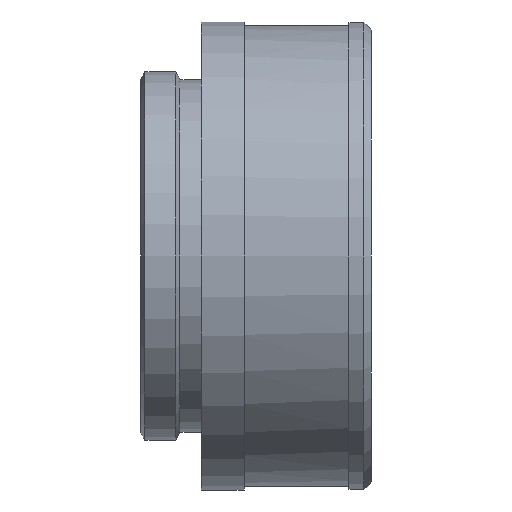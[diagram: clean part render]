
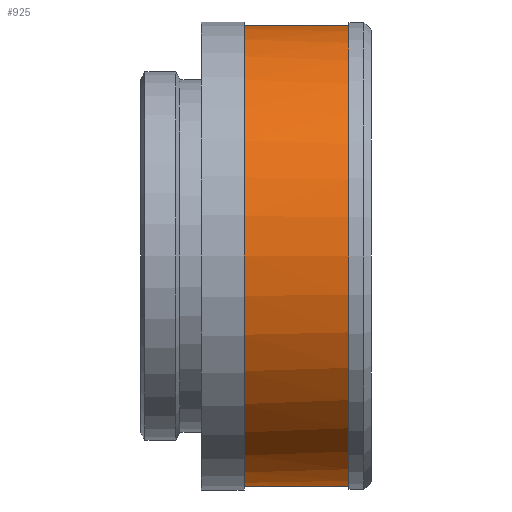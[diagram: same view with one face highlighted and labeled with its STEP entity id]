
A CAD part, left-side view. The second image highlights one B-rep face of the part: STEP entity #925.
In plain terms, the highlighted cylindrical face has radius 15.621 mm (diameter 31.242 mm), a partial arc.
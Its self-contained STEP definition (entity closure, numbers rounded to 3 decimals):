
#93 = DIRECTION ( 'NONE',  ( 0., 1., 0. ) ) ;
#267 = LINE ( 'NONE', #7839, #15026 ) ;
#748 = VERTEX_POINT ( 'NONE', #5940 ) ;
#925 = ADVANCED_FACE ( 'NONE', ( #6192 ), #23435, .T. ) ;
#1156 = CARTESIAN_POINT ( 'NONE',  ( 0., -2.226, 0. ) ) ;
#1490 = AXIS2_PLACEMENT_3D ( 'NONE', #22007, #93, #2105 ) ;
#2105 = DIRECTION ( 'NONE',  ( 0., 0., 1. ) ) ;
#2856 = DIRECTION ( 'NONE',  ( 0., 0., 1. ) ) ;
#3131 = DIRECTION ( 'NONE',  ( 0., -1., 0. ) ) ;
#3365 = ORIENTED_EDGE ( 'NONE', *, *, #20206, .F. ) ;
#3503 = ORIENTED_EDGE ( 'NONE', *, *, #23877, .T. ) ;
#3743 = DIRECTION ( 'NONE',  ( 0., 1., 0. ) ) ;
#5940 = CARTESIAN_POINT ( 'NONE',  ( 0., 4.886, 15.621 ) ) ;
#5973 = EDGE_CURVE ( 'NONE', #16554, #748, #11481, .T. ) ;
#6020 = AXIS2_PLACEMENT_3D ( 'NONE', #17076, #3131, #17165 ) ;
#6192 = FACE_OUTER_BOUND ( 'NONE', #13542, .T. ) ;
#7019 = EDGE_CURVE ( 'NONE', #21268, #7493, #20236, .T. ) ;
#7318 = DIRECTION ( 'NONE',  ( 0., 0., 1. ) ) ;
#7493 = VERTEX_POINT ( 'NONE', #9670 ) ;
#7568 = ORIENTED_EDGE ( 'NONE', *, *, #7019, .T. ) ;
#7720 = ORIENTED_EDGE ( 'NONE', *, *, #22674, .T. ) ;
#7839 = CARTESIAN_POINT ( 'NONE',  ( 0., 0., 15.621 ) ) ;
#8393 = AXIS2_PLACEMENT_3D ( 'NONE', #10695, #24676, #2856 ) ;
#8775 = LINE ( 'NONE', #23969, #13454 ) ;
#9670 = CARTESIAN_POINT ( 'NONE',  ( -0.762, -2.226, -15.602 ) ) ;
#10695 = CARTESIAN_POINT ( 'NONE',  ( 0., 0., 0. ) ) ;
#11429 = CARTESIAN_POINT ( 'NONE',  ( 0., -2.226, 0. ) ) ;
#11481 = CIRCLE ( 'NONE', #1490, 15.621 ) ;
#11782 = VERTEX_POINT ( 'NONE', #16263 ) ;
#12760 = VERTEX_POINT ( 'NONE', #16170 ) ;
#13454 = VECTOR ( 'NONE', #3743, 1000. ) ;
#13542 = EDGE_LOOP ( 'NONE', ( #16136, #7568, #3503, #3365, #7720, #20912 ) ) ;
#13715 = AXIS2_PLACEMENT_3D ( 'NONE', #1156, #23240, #15037 ) ;
#13813 = CIRCLE ( 'NONE', #6020, 15.621 ) ;
#14731 = CIRCLE ( 'NONE', #13715, 15.621 ) ;
#15026 = VECTOR ( 'NONE', #19737, 1000. ) ;
#15037 = DIRECTION ( 'NONE',  ( 0., 0., 1. ) ) ;
#16136 = ORIENTED_EDGE ( 'NONE', *, *, #23545, .F. ) ;
#16170 = CARTESIAN_POINT ( 'NONE',  ( 0., -2.226, 15.621 ) ) ;
#16263 = CARTESIAN_POINT ( 'NONE',  ( -0.762, -2.226, 15.602 ) ) ;
#16554 = VERTEX_POINT ( 'NONE', #18004 ) ;
#16956 = CARTESIAN_POINT ( 'NONE',  ( 0., -2.226, -15.621 ) ) ;
#17076 = CARTESIAN_POINT ( 'NONE',  ( 0., -2.226, 0. ) ) ;
#17165 = DIRECTION ( 'NONE',  ( 0., 0., 1. ) ) ;
#17972 = AXIS2_PLACEMENT_3D ( 'NONE', #11429, #19220, #7318 ) ;
#18004 = CARTESIAN_POINT ( 'NONE',  ( 0., 4.886, -15.621 ) ) ;
#19220 = DIRECTION ( 'NONE',  ( 0., 1., 0. ) ) ;
#19737 = DIRECTION ( 'NONE',  ( 0., 1., 0. ) ) ;
#20206 = EDGE_CURVE ( 'NONE', #12760, #11782, #13813, .T. ) ;
#20236 = CIRCLE ( 'NONE', #17972, 15.621 ) ;
#20912 = ORIENTED_EDGE ( 'NONE', *, *, #5973, .F. ) ;
#21268 = VERTEX_POINT ( 'NONE', #16956 ) ;
#22007 = CARTESIAN_POINT ( 'NONE',  ( 0., 4.886, 0. ) ) ;
#22674 = EDGE_CURVE ( 'NONE', #12760, #748, #267, .T. ) ;
#23240 = DIRECTION ( 'NONE',  ( 0., 1., 0. ) ) ;
#23435 = CYLINDRICAL_SURFACE ( 'NONE', #8393, 15.621 ) ;
#23545 = EDGE_CURVE ( 'NONE', #21268, #16554, #8775, .T. ) ;
#23877 = EDGE_CURVE ( 'NONE', #7493, #11782, #14731, .T. ) ;
#23969 = CARTESIAN_POINT ( 'NONE',  ( 0., 0., -15.621 ) ) ;
#24676 = DIRECTION ( 'NONE',  ( 0., 1., 0. ) ) ;
